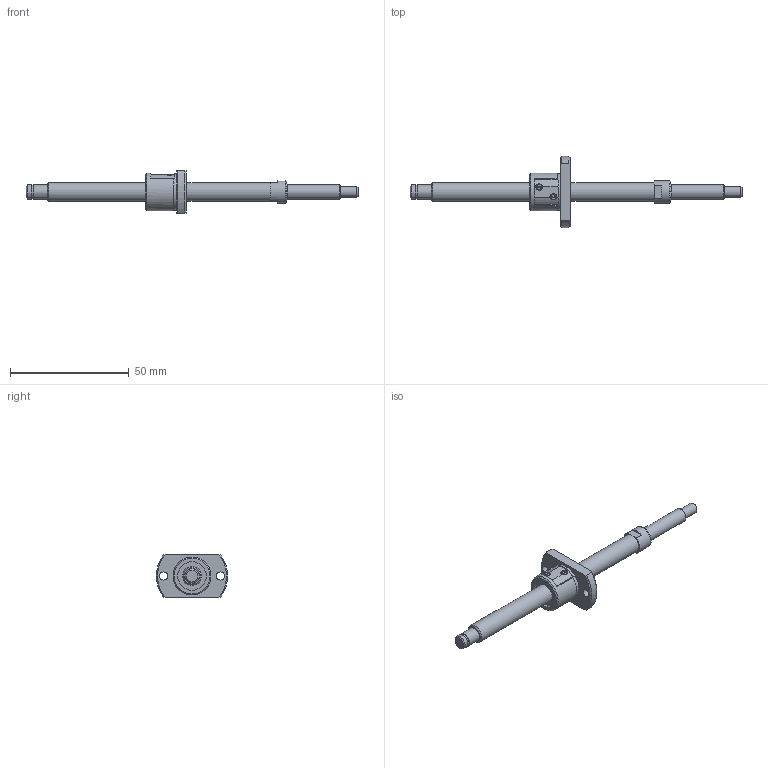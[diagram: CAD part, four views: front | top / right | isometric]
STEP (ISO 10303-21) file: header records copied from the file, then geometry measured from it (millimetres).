
FILE_DESCRIPTION(/* description */ ('STEP AP214'),/* implementation_level */ '2;1');
FILE_NAME(/* name */ 'SG0801-091R140C3B0X(41.5)',/* time_stamp */ '2026-07-21T16:37:15+02:00',/* author */ ('License CC BY-ND 4.0'),/* organization */ ('CADENAS'),/* preprocessor_version */ 'ST-DEVELOPER v20',/* originating_system */ 'PARTsolutions',/* authorisation */ ' ');
FILE_SCHEMA (('AUTOMOTIVE_DESIGN {1 0 10303 214 3 1 1}'));
Length unit declared in the file: millimetre
Products named in the file (3): SG0801-091R140C3B0X(41.5); SG0801-91R140C3B_shaft; SG0801_nut
Assembly tree (2 placements, depth 2):
  SG0801-091R140C3B0X(41.5)
    SG0801-91R140C3B_shaft
    SG0801_nut
Bounding box: 140 x 30 x 18 mm (x, y, z)
Volume: 9694.2 mm3; surface area: 5803.4 mm2
Topology: 2 solids, 2 shells, 81 faces, 193 edges, 126 vertices
Faces by surface type: plane 38, cylinder 28, cone 14, torus 1
Full cylindrical faces by diameter (mm): 3.4 x2, 4.5 x1, 5.7 x1, 6 x3, 8 x2, 9.5 x1, 12 x2, 15.6 x1, 16 x1
Entity records: 2263 total; most frequent: CARTESIAN_POINT 426, DIRECTION 382, ORIENTED_EDGE 318, AXIS2_PLACEMENT_3D 161, EDGE_CURVE 159, EDGE_LOOP 122, FACE_BOUND 122, VERTEX_POINT 117
